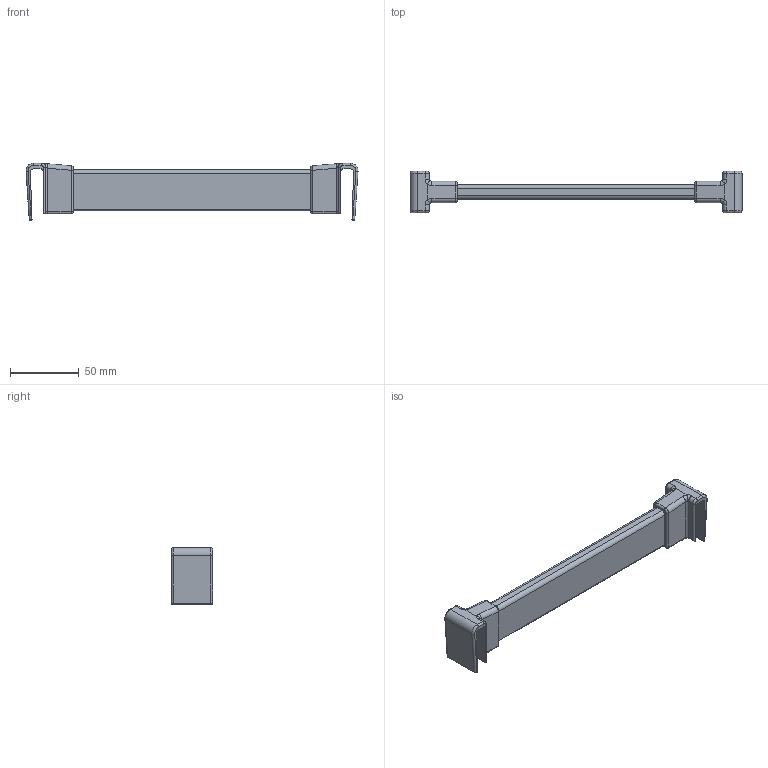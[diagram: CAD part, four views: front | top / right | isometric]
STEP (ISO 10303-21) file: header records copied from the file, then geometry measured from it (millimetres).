
FILE_DESCRIPTION (( 'STEP AP214' ), '1' );
FILE_NAME ('_Querreling_KAB-300_KS-16_P602_Glashalter.step', '2010-08-26T14:59:25', ( 'grass' ), ( '' ), 'SwSTEP 2.0', 'SolidWorks 2009', '' );
FILE_SCHEMA (( 'AUTOMOTIVE_DESIGN' ));
Length unit declared in the file: millimetre
Products named in the file (1): _Querreling_KAB-300_KS-16_P602_Glashalter
Bounding box: 240.78 x 30 x 41.5 mm (x, y, z)
Volume: 87883.4 mm3; surface area: 27209.4 mm2
Topology: 1 solids, 1 shells, 124 faces, 300 edges, 176 vertices
Faces by surface type: cylinder 58, plane 34, torus 16, bspline 12, sphere 4
Entity records: 5090 total; most frequent: CARTESIAN_POINT 2269, ORIENTED_EDGE 592, DIRECTION 590, EDGE_CURVE 296, AXIS2_PLACEMENT_3D 225, VERTEX_POINT 176, VECTOR 140, LINE 140
